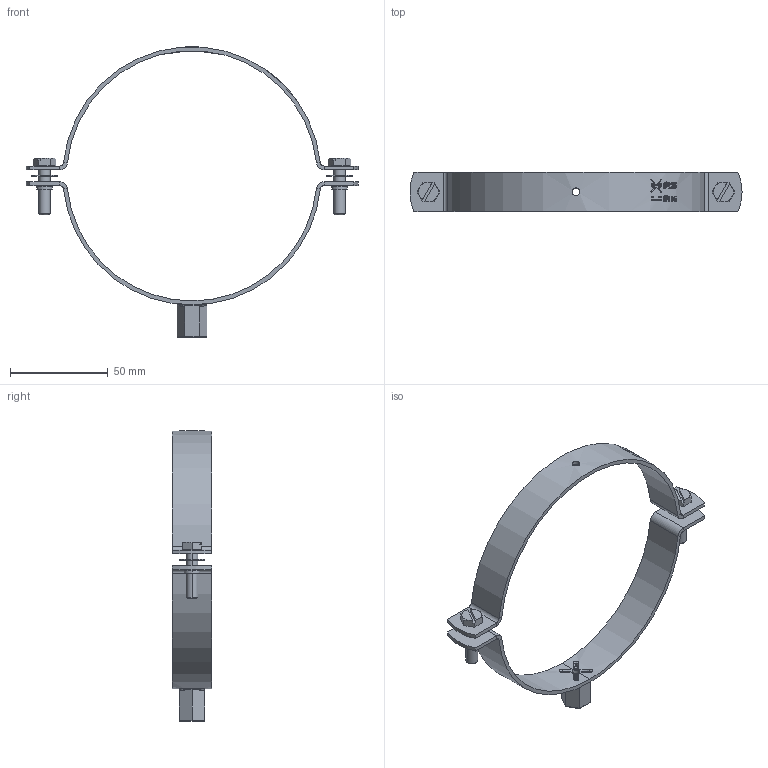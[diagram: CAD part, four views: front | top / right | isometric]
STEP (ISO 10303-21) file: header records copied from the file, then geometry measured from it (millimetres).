
FILE_DESCRIPTION (( 'STEP AP214' ), '1' );
FILE_NAME ('30179125.STEP', '2022-10-27T06:54:35', ( '' ), ( '' ), 'SwSTEP 2.0', 'SolidWorks 2021', '' );
FILE_SCHEMA (( 'AUTOMOTIVE_DESIGN' ));
Length unit declared in the file: millimetre
Products named in the file (7): Clamp^8110130125; 9519002599; 9541506025; 8020130125; 9735013060; 8110130125; 30179125
Assembly tree (8 placements, depth 3):
  30179125
    8110130125
      Clamp^8110130125
      9519002599
    8020130125
    9541506025  x2
    9735013060  x2
Bounding box: 169.77 x 20 x 148.59 mm (x, y, z)
Volume: 22143 mm3; surface area: 24085.8 mm2
Topology: 7 solids, 7 shells, 476 faces, 1231 edges, 786 vertices
Faces by surface type: bspline 168, plane 158, cylinder 108, cone 30, torus 12
Entity records: 24335 total; most frequent: CARTESIAN_POINT 15083, ORIENTED_EDGE 2208, DIRECTION 1283, EDGE_CURVE 1104, VERTEX_POINT 705, B_SPLINE_CURVE_WITH_KNOTS 570, AXIS2_PLACEMENT_3D 493, EDGE_LOOP 455
